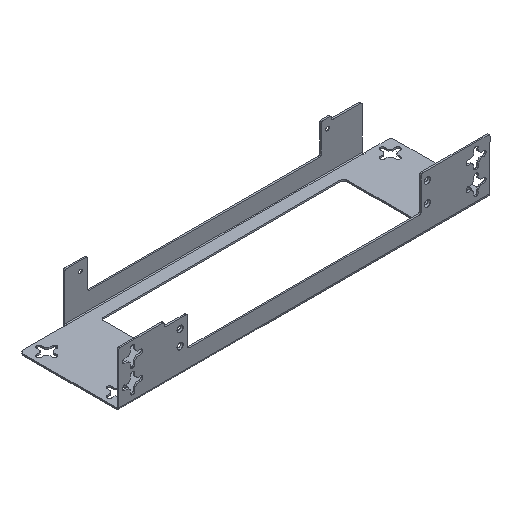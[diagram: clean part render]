
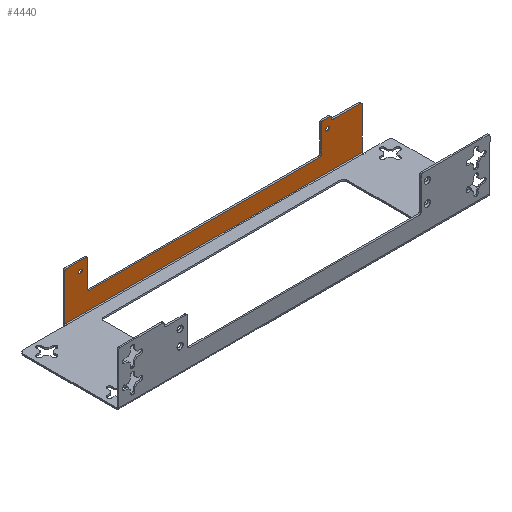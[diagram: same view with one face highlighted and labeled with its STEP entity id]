
A CAD part, isometric view. The second image highlights one B-rep face of the part: STEP entity #4440.
In plain terms, the highlighted planar face has unit normal (0, -1, 0).
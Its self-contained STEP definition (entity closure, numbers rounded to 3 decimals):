
#453=FACE_BOUND('',#821,.T.);
#454=FACE_BOUND('',#822,.T.);
#485=PLANE('',#4727);
#599=FACE_OUTER_BOUND('',#820,.T.);
#820=EDGE_LOOP('',(#3267,#3268,#3269,#3270,#3271,#3272,#3273,#3274,#3275,
#3276,#3277,#3278,#3279,#3280,#3281,#3282,#3283));
#821=EDGE_LOOP('',(#3284));
#822=EDGE_LOOP('',(#3285));
#1105=LINE('',#6775,#1506);
#1108=LINE('',#6781,#1509);
#1109=LINE('',#6783,#1510);
#1110=LINE('',#6785,#1511);
#1111=LINE('',#6789,#1512);
#1112=LINE('',#6795,#1513);
#1113=LINE('',#6799,#1514);
#1114=LINE('',#6803,#1515);
#1115=LINE('',#6807,#1516);
#1506=VECTOR('',#5360,10.);
#1509=VECTOR('',#5365,1.88);
#1510=VECTOR('',#5366,10.);
#1511=VECTOR('',#5367,1.88);
#1512=VECTOR('',#5370,10.);
#1513=VECTOR('',#5375,10.);
#1514=VECTOR('',#5378,10.);
#1515=VECTOR('',#5381,10.);
#1516=VECTOR('',#5384,10.);
#1891=CIRCLE('',#4725,2.5);
#1892=CIRCLE('',#4728,2.5);
#1893=CIRCLE('',#4729,2.5);
#1894=CIRCLE('',#4730,2.5);
#1895=CIRCLE('',#4731,2.5);
#1896=CIRCLE('',#4732,2.5);
#1897=CIRCLE('',#4733,2.5);
#1898=CIRCLE('',#4734,2.5);
#1899=CIRCLE('',#4735,2.25);
#1900=CIRCLE('',#4736,2.25);
#2215=VERTEX_POINT('',#6768);
#2216=VERTEX_POINT('',#6770);
#2217=VERTEX_POINT('',#6774);
#2219=VERTEX_POINT('',#6780);
#2220=VERTEX_POINT('',#6782);
#2221=VERTEX_POINT('',#6784);
#2222=VERTEX_POINT('',#6786);
#2223=VERTEX_POINT('',#6788);
#2224=VERTEX_POINT('',#6790);
#2225=VERTEX_POINT('',#6792);
#2226=VERTEX_POINT('',#6794);
#2227=VERTEX_POINT('',#6796);
#2228=VERTEX_POINT('',#6798);
#2229=VERTEX_POINT('',#6800);
#2230=VERTEX_POINT('',#6802);
#2231=VERTEX_POINT('',#6804);
#2232=VERTEX_POINT('',#6806);
#2233=VERTEX_POINT('',#6809);
#2234=VERTEX_POINT('',#6811);
#2625=EDGE_CURVE('',#2215,#2216,#1891,.T.);
#2627=EDGE_CURVE('',#2217,#2216,#1105,.T.);
#2630=EDGE_CURVE('',#2215,#2219,#1108,.T.);
#2631=EDGE_CURVE('',#2219,#2220,#1109,.T.);
#2632=EDGE_CURVE('',#2221,#2220,#1110,.T.);
#2633=EDGE_CURVE('',#2222,#2221,#1892,.T.);
#2634=EDGE_CURVE('',#2222,#2223,#1111,.T.);
#2635=EDGE_CURVE('',#2224,#2223,#1893,.T.);
#2636=EDGE_CURVE('',#2225,#2224,#1894,.T.);
#2637=EDGE_CURVE('',#2225,#2226,#1112,.T.);
#2638=EDGE_CURVE('',#2227,#2226,#1895,.T.);
#2639=EDGE_CURVE('',#2227,#2228,#1113,.T.);
#2640=EDGE_CURVE('',#2229,#2228,#1896,.T.);
#2641=EDGE_CURVE('',#2229,#2230,#1114,.T.);
#2642=EDGE_CURVE('',#2231,#2230,#1897,.T.);
#2643=EDGE_CURVE('',#2231,#2232,#1115,.T.);
#2644=EDGE_CURVE('',#2217,#2232,#1898,.T.);
#2645=EDGE_CURVE('',#2233,#2233,#1899,.T.);
#2646=EDGE_CURVE('',#2234,#2234,#1900,.T.);
#3267=ORIENTED_EDGE('',*,*,#2625,.F.);
#3268=ORIENTED_EDGE('',*,*,#2630,.T.);
#3269=ORIENTED_EDGE('',*,*,#2631,.T.);
#3270=ORIENTED_EDGE('',*,*,#2632,.F.);
#3271=ORIENTED_EDGE('',*,*,#2633,.F.);
#3272=ORIENTED_EDGE('',*,*,#2634,.T.);
#3273=ORIENTED_EDGE('',*,*,#2635,.F.);
#3274=ORIENTED_EDGE('',*,*,#2636,.F.);
#3275=ORIENTED_EDGE('',*,*,#2637,.T.);
#3276=ORIENTED_EDGE('',*,*,#2638,.F.);
#3277=ORIENTED_EDGE('',*,*,#2639,.T.);
#3278=ORIENTED_EDGE('',*,*,#2640,.F.);
#3279=ORIENTED_EDGE('',*,*,#2641,.T.);
#3280=ORIENTED_EDGE('',*,*,#2642,.F.);
#3281=ORIENTED_EDGE('',*,*,#2643,.T.);
#3282=ORIENTED_EDGE('',*,*,#2644,.F.);
#3283=ORIENTED_EDGE('',*,*,#2627,.T.);
#3284=ORIENTED_EDGE('',*,*,#2645,.T.);
#3285=ORIENTED_EDGE('',*,*,#2646,.T.);
#4440=ADVANCED_FACE('',(#599,#453,#454),#485,.T.);
#4725=AXIS2_PLACEMENT_3D('',#6771,#5355,#5356);
#4727=AXIS2_PLACEMENT_3D('',#6779,#5363,#5364);
#4728=AXIS2_PLACEMENT_3D('',#6787,#5368,#5369);
#4729=AXIS2_PLACEMENT_3D('',#6791,#5371,#5372);
#4730=AXIS2_PLACEMENT_3D('',#6793,#5373,#5374);
#4731=AXIS2_PLACEMENT_3D('',#6797,#5376,#5377);
#4732=AXIS2_PLACEMENT_3D('',#6801,#5379,#5380);
#4733=AXIS2_PLACEMENT_3D('',#6805,#5382,#5383);
#4734=AXIS2_PLACEMENT_3D('',#6808,#5385,#5386);
#4735=AXIS2_PLACEMENT_3D('',#6810,#5387,#5388);
#4736=AXIS2_PLACEMENT_3D('',#6812,#5389,#5390);
#5355=DIRECTION('center_axis',(0.,1.,0.));
#5356=DIRECTION('ref_axis',(-0.707,0.,0.707));
#5360=DIRECTION('',(-1.,0.,0.));
#5363=DIRECTION('center_axis',(0.,-1.,0.));
#5364=DIRECTION('ref_axis',(1.,0.,0.));
#5365=DIRECTION('',(0.,0.,-1.));
#5366=DIRECTION('',(1.,0.,0.));
#5367=DIRECTION('',(0.,0.,-1.));
#5368=DIRECTION('center_axis',(0.,1.,0.));
#5369=DIRECTION('ref_axis',(0.707,0.,0.707));
#5370=DIRECTION('',(-1.,0.,0.));
#5371=DIRECTION('center_axis',(0.,-1.,0.));
#5372=DIRECTION('ref_axis',(-0.707,0.,-0.707));
#5373=DIRECTION('center_axis',(0.,1.,0.));
#5374=DIRECTION('ref_axis',(0.707,0.,0.707));
#5375=DIRECTION('',(-1.,0.,0.));
#5376=DIRECTION('center_axis',(0.,1.,0.));
#5377=DIRECTION('ref_axis',(-0.707,0.,0.707));
#5378=DIRECTION('',(0.,0.,-1.));
#5379=DIRECTION('center_axis',(0.,-1.,0.));
#5380=DIRECTION('ref_axis',(0.707,0.,-0.707));
#5381=DIRECTION('',(-1.,0.,0.));
#5382=DIRECTION('center_axis',(0.,-1.,0.));
#5383=DIRECTION('ref_axis',(-0.707,0.,-0.707));
#5384=DIRECTION('',(0.,0.,1.));
#5385=DIRECTION('center_axis',(0.,1.,0.));
#5386=DIRECTION('ref_axis',(0.707,0.,0.707));
#5387=DIRECTION('center_axis',(0.,1.,0.));
#5388=DIRECTION('ref_axis',(1.,0.,0.));
#5389=DIRECTION('center_axis',(0.,1.,0.));
#5390=DIRECTION('ref_axis',(1.,0.,0.));
#6768=CARTESIAN_POINT('',(-14.,63.5,59.5));
#6770=CARTESIAN_POINT('',(-11.5,63.5,62.));
#6771=CARTESIAN_POINT('Origin',(-11.5,63.5,59.5));
#6774=CARTESIAN_POINT('',(13.5,63.5,62.));
#6775=CARTESIAN_POINT('',(371.,63.5,62.));
#6779=CARTESIAN_POINT('Origin',(178.5,63.5,30.023));
#6780=CARTESIAN_POINT('',(-14.,63.5,1.));
#6781=CARTESIAN_POINT('',(-14.,63.5,-4.906));
#6782=CARTESIAN_POINT('',(371.,63.5,1.));
#6783=CARTESIAN_POINT('',(178.5,63.5,1.));
#6784=CARTESIAN_POINT('',(371.,63.5,54.5));
#6785=CARTESIAN_POINT('',(371.,63.5,-4.906));
#6786=CARTESIAN_POINT('',(368.5,63.5,57.));
#6787=CARTESIAN_POINT('Origin',(368.5,63.5,54.5));
#6788=CARTESIAN_POINT('',(333.5,63.5,57.));
#6789=CARTESIAN_POINT('',(254.75,63.5,57.));
#6790=CARTESIAN_POINT('',(331.,63.5,59.5));
#6791=CARTESIAN_POINT('Origin',(333.5,63.5,59.5));
#6792=CARTESIAN_POINT('',(328.5,63.5,62.));
#6793=CARTESIAN_POINT('Origin',(328.5,63.5,59.5));
#6794=CARTESIAN_POINT('',(320.5,63.5,62.));
#6795=CARTESIAN_POINT('',(371.,63.5,62.));
#6796=CARTESIAN_POINT('',(318.,63.5,59.5));
#6797=CARTESIAN_POINT('Origin',(320.5,63.5,59.5));
#6798=CARTESIAN_POINT('',(318.,63.5,25.5));
#6799=CARTESIAN_POINT('',(318.,63.5,26.512));
#6800=CARTESIAN_POINT('',(315.5,63.5,23.));
#6801=CARTESIAN_POINT('Origin',(315.5,63.5,25.5));
#6802=CARTESIAN_POINT('',(18.5,63.5,23.));
#6803=CARTESIAN_POINT('',(97.25,63.5,23.));
#6804=CARTESIAN_POINT('',(16.,63.5,25.5));
#6805=CARTESIAN_POINT('Origin',(18.5,63.5,25.5));
#6806=CARTESIAN_POINT('',(16.,63.5,59.5));
#6807=CARTESIAN_POINT('',(16.,63.5,46.012));
#6808=CARTESIAN_POINT('Origin',(13.5,63.5,59.5));
#6809=CARTESIAN_POINT('',(323.75,63.5,50.));
#6810=CARTESIAN_POINT('Origin',(326.,63.5,50.));
#6811=CARTESIAN_POINT('',(4.25,63.5,50.));
#6812=CARTESIAN_POINT('Origin',(6.5,63.5,50.));
